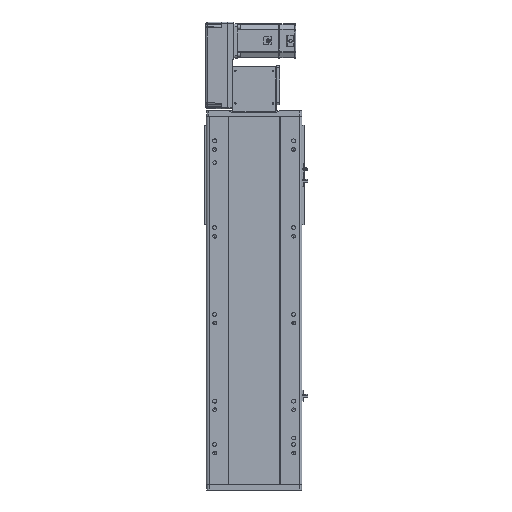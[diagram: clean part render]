
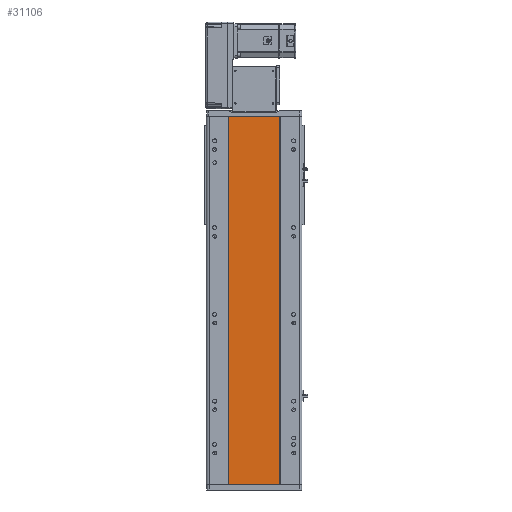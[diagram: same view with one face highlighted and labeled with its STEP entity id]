
A CAD part, front view. The second image highlights one B-rep face of the part: STEP entity #31106.
In plain terms, the highlighted planar face has unit normal (0, -1, 0).
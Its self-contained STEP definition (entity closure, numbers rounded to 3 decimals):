
#936 = CARTESIAN_POINT ( 'NONE',  ( 59., 1., -424.5 ) ) ;
#2282 = DIRECTION ( 'NONE',  ( 1., 0., 0. ) ) ;
#3487 = CARTESIAN_POINT ( 'NONE',  ( -59., 1., 424.5 ) ) ;
#4692 = FACE_OUTER_BOUND ( 'NONE', #47873, .T. ) ;
#7100 = CARTESIAN_POINT ( 'NONE',  ( -59., 1., 424.5 ) ) ;
#10422 = DIRECTION ( 'NONE',  ( 1., 0., 0. ) ) ;
#11943 = PLANE ( 'NONE',  #29803 ) ;
#12385 = LINE ( 'NONE', #49637, #40883 ) ;
#12911 = CARTESIAN_POINT ( 'NONE',  ( -59., 1., -424.5 ) ) ;
#13146 = CARTESIAN_POINT ( 'NONE',  ( -59., 1., 424.5 ) ) ;
#14120 = DIRECTION ( 'NONE',  ( 0., 0., -1. ) ) ;
#16078 = EDGE_CURVE ( 'NONE', #43030, #35283, #20163, .T. ) ;
#17279 = CARTESIAN_POINT ( 'NONE',  ( -59., 1., 424.5 ) ) ;
#18795 = EDGE_CURVE ( 'NONE', #44207, #50966, #12385, .T. ) ;
#19000 = LINE ( 'NONE', #22618, #29567 ) ;
#19729 = EDGE_CURVE ( 'NONE', #43030, #44207, #33374, .T. ) ;
#20163 = LINE ( 'NONE', #13146, #43715 ) ;
#22618 = CARTESIAN_POINT ( 'NONE',  ( -59., 1., -424.5 ) ) ;
#27017 = ORIENTED_EDGE ( 'NONE', *, *, #18795, .F. ) ;
#28579 = DIRECTION ( 'NONE',  ( 0., 0., -1. ) ) ;
#29567 = VECTOR ( 'NONE', #2282, 1000. ) ;
#29803 = AXIS2_PLACEMENT_3D ( 'NONE', #17279, #40490, #44483 ) ;
#31106 = ADVANCED_FACE ( 'NONE', ( #4692 ), #11943, .F. ) ;
#33374 = LINE ( 'NONE', #7100, #50098 ) ;
#33649 = ORIENTED_EDGE ( 'NONE', *, *, #16078, .T. ) ;
#35283 = VERTEX_POINT ( 'NONE', #12911 ) ;
#40490 = DIRECTION ( 'NONE',  ( 0., 1., 0. ) ) ;
#40836 = CARTESIAN_POINT ( 'NONE',  ( 59., 1., 424.5 ) ) ;
#40883 = VECTOR ( 'NONE', #14120, 1000. ) ;
#42881 = EDGE_CURVE ( 'NONE', #35283, #50966, #19000, .T. ) ;
#43030 = VERTEX_POINT ( 'NONE', #3487 ) ;
#43715 = VECTOR ( 'NONE', #28579, 1000. ) ;
#44207 = VERTEX_POINT ( 'NONE', #40836 ) ;
#44483 = DIRECTION ( 'NONE',  ( -1., 0., 0. ) ) ;
#47873 = EDGE_LOOP ( 'NONE', ( #47983, #27017, #49018, #33649 ) ) ;
#47983 = ORIENTED_EDGE ( 'NONE', *, *, #42881, .T. ) ;
#49018 = ORIENTED_EDGE ( 'NONE', *, *, #19729, .F. ) ;
#49637 = CARTESIAN_POINT ( 'NONE',  ( 59., 1., 424.5 ) ) ;
#50098 = VECTOR ( 'NONE', #10422, 1000. ) ;
#50966 = VERTEX_POINT ( 'NONE', #936 ) ;
